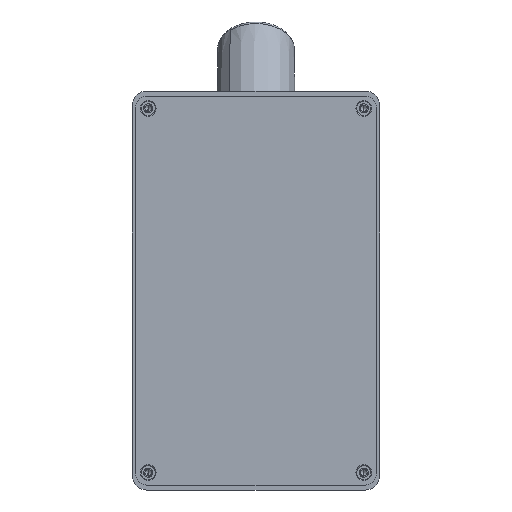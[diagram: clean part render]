
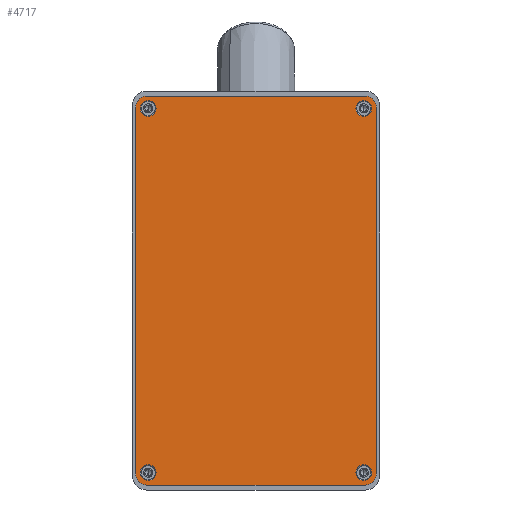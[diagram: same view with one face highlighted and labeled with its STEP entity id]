
A CAD part, front view. The second image highlights one B-rep face of the part: STEP entity #4717.
In plain terms, the highlighted planar face has unit normal (0, -1, 0) as drawn and (0, 1, 0) by its records, which use the part's own axes.
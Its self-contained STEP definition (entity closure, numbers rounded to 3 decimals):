
#136 = FACE_BOUND ( 'NONE', #441, .T. ) ;
#334 = ORIENTED_EDGE ( 'NONE', *, *, #5741, .T. ) ;
#355 = VERTEX_POINT ( 'NONE', #5145 ) ;
#363 = CARTESIAN_POINT ( 'NONE',  ( -78.5, 0., -44. ) ) ;
#365 = DIRECTION ( 'NONE',  ( 0., 1., 0. ) ) ;
#441 = EDGE_LOOP ( 'NONE', ( #6919, #2501 ) ) ;
#449 = ORIENTED_EDGE ( 'NONE', *, *, #3900, .T. ) ;
#470 = EDGE_CURVE ( 'NONE', #3760, #739, #3908, .T. ) ;
#639 = EDGE_CURVE ( 'NONE', #5046, #3588, #1570, .T. ) ;
#640 = EDGE_LOOP ( 'NONE', ( #9676, #1785 ) ) ;
#739 = VERTEX_POINT ( 'NONE', #7629 ) ;
#778 = ORIENTED_EDGE ( 'NONE', *, *, #8819, .T. ) ;
#803 = CARTESIAN_POINT ( 'NONE',  ( 74., 0., -48.5 ) ) ;
#835 = ORIENTED_EDGE ( 'NONE', *, *, #470, .F. ) ;
#850 = CARTESIAN_POINT ( 'NONE',  ( 78.5, 0., 44. ) ) ;
#877 = FACE_OUTER_BOUND ( 'NONE', #9380, .T. ) ;
#952 = VERTEX_POINT ( 'NONE', #9512 ) ;
#975 = VECTOR ( 'NONE', #2013, 1000. ) ;
#1079 = AXIS2_PLACEMENT_3D ( 'NONE', #8749, #5695, #1634 ) ;
#1083 = CARTESIAN_POINT ( 'NONE',  ( -74., 0., 44. ) ) ;
#1117 = CARTESIAN_POINT ( 'NONE',  ( -73.5, 0., -46.65 ) ) ;
#1123 = AXIS2_PLACEMENT_3D ( 'NONE', #1272, #1382, #6908 ) ;
#1272 = CARTESIAN_POINT ( 'NONE',  ( -73.5, 0., -43.5 ) ) ;
#1332 = AXIS2_PLACEMENT_3D ( 'NONE', #8323, #9928, #7470 ) ;
#1334 = AXIS2_PLACEMENT_3D ( 'NONE', #7619, #5301, #2914 ) ;
#1382 = DIRECTION ( 'NONE',  ( 0., 1., 0. ) ) ;
#1390 = CARTESIAN_POINT ( 'NONE',  ( 73.5, 0., -40.35 ) ) ;
#1560 = VERTEX_POINT ( 'NONE', #2575 ) ;
#1570 = CIRCLE ( 'NONE', #1332, 4.5 ) ;
#1634 = DIRECTION ( 'NONE',  ( 0., 0., 1. ) ) ;
#1651 = EDGE_CURVE ( 'NONE', #2747, #952, #2968, .T. ) ;
#1785 = ORIENTED_EDGE ( 'NONE', *, *, #6494, .F. ) ;
#1974 = FACE_BOUND ( 'NONE', #7799, .T. ) ;
#2013 = DIRECTION ( 'NONE',  ( 0., 0., -1. ) ) ;
#2124 = CARTESIAN_POINT ( 'NONE',  ( -74., 0., -48.5 ) ) ;
#2258 = DIRECTION ( 'NONE',  ( -1., 0., 0. ) ) ;
#2327 = EDGE_CURVE ( 'NONE', #5093, #1560, #8859, .T. ) ;
#2400 = AXIS2_PLACEMENT_3D ( 'NONE', #6205, #6830, #8439 ) ;
#2414 = CIRCLE ( 'NONE', #2400, 4.5 ) ;
#2445 = EDGE_CURVE ( 'NONE', #952, #8246, #4939, .T. ) ;
#2501 = ORIENTED_EDGE ( 'NONE', *, *, #3757, .F. ) ;
#2575 = CARTESIAN_POINT ( 'NONE',  ( -73.5, 0., 46.65 ) ) ;
#2593 = ORIENTED_EDGE ( 'NONE', *, *, #7977, .T. ) ;
#2620 = CARTESIAN_POINT ( 'NONE',  ( 73.5, 0., -46.65 ) ) ;
#2651 = LINE ( 'NONE', #4556, #8684 ) ;
#2747 = VERTEX_POINT ( 'NONE', #6885 ) ;
#2754 = VERTEX_POINT ( 'NONE', #1390 ) ;
#2792 = CARTESIAN_POINT ( 'NONE',  ( 73.5, 0., -43.5 ) ) ;
#2913 = ORIENTED_EDGE ( 'NONE', *, *, #8772, .T. ) ;
#2914 = DIRECTION ( 'NONE',  ( 0., 0., 1. ) ) ;
#2968 = LINE ( 'NONE', #363, #8865 ) ;
#2969 = DIRECTION ( 'NONE',  ( 0., 1., 0. ) ) ;
#2973 = DIRECTION ( 'NONE',  ( 1., 0., 0. ) ) ;
#3080 = LINE ( 'NONE', #9853, #975 ) ;
#3139 = DIRECTION ( 'NONE',  ( 0., 0., 1. ) ) ;
#3151 = CARTESIAN_POINT ( 'NONE',  ( -73.5, 0., 40.35 ) ) ;
#3277 = AXIS2_PLACEMENT_3D ( 'NONE', #1083, #6586, #8967 ) ;
#3413 = DIRECTION ( 'NONE',  ( 0., 1., 0. ) ) ;
#3546 = CIRCLE ( 'NONE', #5454, 3.15 ) ;
#3585 = DIRECTION ( 'NONE',  ( 0., 0., 1. ) ) ;
#3588 = VERTEX_POINT ( 'NONE', #850 ) ;
#3641 = AXIS2_PLACEMENT_3D ( 'NONE', #8804, #3413, #4105 ) ;
#3642 = CIRCLE ( 'NONE', #1334, 3.15 ) ;
#3737 = ORIENTED_EDGE ( 'NONE', *, *, #6120, .F. ) ;
#3753 = AXIS2_PLACEMENT_3D ( 'NONE', #3898, #6294, #3139 ) ;
#3757 = EDGE_CURVE ( 'NONE', #4981, #355, #3546, .T. ) ;
#3760 = VERTEX_POINT ( 'NONE', #1117 ) ;
#3898 = CARTESIAN_POINT ( 'NONE',  ( -73.5, 0., 43.5 ) ) ;
#3900 = EDGE_CURVE ( 'NONE', #8246, #5046, #5538, .T. ) ;
#3908 = CIRCLE ( 'NONE', #1123, 3.15 ) ;
#4051 = CIRCLE ( 'NONE', #5156, 3.15 ) ;
#4069 = CIRCLE ( 'NONE', #3641, 4.5 ) ;
#4105 = DIRECTION ( 'NONE',  ( 0., 0., 1. ) ) ;
#4183 = VECTOR ( 'NONE', #2973, 1000. ) ;
#4556 = CARTESIAN_POINT ( 'NONE',  ( -74., 0., -48.5 ) ) ;
#4598 = FACE_BOUND ( 'NONE', #640, .T. ) ;
#4717 = ADVANCED_FACE ( 'NONE', ( #6784, #4598, #136, #1974, #877 ), #5798, .T. ) ;
#4939 = CIRCLE ( 'NONE', #6353, 4.5 ) ;
#4970 = VERTEX_POINT ( 'NONE', #803 ) ;
#4981 = VERTEX_POINT ( 'NONE', #8882 ) ;
#5046 = VERTEX_POINT ( 'NONE', #7817 ) ;
#5052 = DIRECTION ( 'NONE',  ( 0., 0., 1. ) ) ;
#5093 = VERTEX_POINT ( 'NONE', #3151 ) ;
#5145 = CARTESIAN_POINT ( 'NONE',  ( 73.5, 0., 46.65 ) ) ;
#5156 = AXIS2_PLACEMENT_3D ( 'NONE', #6892, #2969, #6824 ) ;
#5165 = DIRECTION ( 'NONE',  ( 0., 0., 1. ) ) ;
#5301 = DIRECTION ( 'NONE',  ( 0., 1., 0. ) ) ;
#5454 = AXIS2_PLACEMENT_3D ( 'NONE', #8968, #365, #5165 ) ;
#5538 = LINE ( 'NONE', #9222, #4183 ) ;
#5695 = DIRECTION ( 'NONE',  ( 0., 1., 0. ) ) ;
#5741 = EDGE_CURVE ( 'NONE', #3588, #7553, #3080, .T. ) ;
#5798 = PLANE ( 'NONE',  #3277 ) ;
#6120 = EDGE_CURVE ( 'NONE', #739, #3760, #7138, .T. ) ;
#6205 = CARTESIAN_POINT ( 'NONE',  ( 74., 0., -44. ) ) ;
#6294 = DIRECTION ( 'NONE',  ( 0., 1., 0. ) ) ;
#6316 = CARTESIAN_POINT ( 'NONE',  ( -73.5, 0., -43.5 ) ) ;
#6353 = AXIS2_PLACEMENT_3D ( 'NONE', #9761, #8119, #5052 ) ;
#6489 = CIRCLE ( 'NONE', #7960, 3.15 ) ;
#6494 = EDGE_CURVE ( 'NONE', #8031, #2754, #4051, .T. ) ;
#6586 = DIRECTION ( 'NONE',  ( 0., 1., 0. ) ) ;
#6687 = EDGE_LOOP ( 'NONE', ( #3737, #835 ) ) ;
#6784 = FACE_BOUND ( 'NONE', #6687, .T. ) ;
#6824 = DIRECTION ( 'NONE',  ( 0., 0., 1. ) ) ;
#6830 = DIRECTION ( 'NONE',  ( 0., 1., 0. ) ) ;
#6885 = CARTESIAN_POINT ( 'NONE',  ( -78.5, 0., -44. ) ) ;
#6892 = CARTESIAN_POINT ( 'NONE',  ( 73.5, 0., -43.5 ) ) ;
#6908 = DIRECTION ( 'NONE',  ( 0., 0., 1. ) ) ;
#6919 = ORIENTED_EDGE ( 'NONE', *, *, #8758, .F. ) ;
#6937 = ORIENTED_EDGE ( 'NONE', *, *, #2445, .T. ) ;
#6971 = EDGE_CURVE ( 'NONE', #2754, #8031, #6489, .T. ) ;
#7138 = CIRCLE ( 'NONE', #9094, 3.15 ) ;
#7146 = DIRECTION ( 'NONE',  ( 0., 0., 1. ) ) ;
#7234 = EDGE_CURVE ( 'NONE', #1560, #5093, #7238, .T. ) ;
#7238 = CIRCLE ( 'NONE', #3753, 3.15 ) ;
#7470 = DIRECTION ( 'NONE',  ( 0., 0., 1. ) ) ;
#7553 = VERTEX_POINT ( 'NONE', #7611 ) ;
#7611 = CARTESIAN_POINT ( 'NONE',  ( 78.5, 0., -44. ) ) ;
#7619 = CARTESIAN_POINT ( 'NONE',  ( 73.5, 0., 43.5 ) ) ;
#7629 = CARTESIAN_POINT ( 'NONE',  ( -73.5, 0., -40.35 ) ) ;
#7799 = EDGE_LOOP ( 'NONE', ( #9631, #10165 ) ) ;
#7817 = CARTESIAN_POINT ( 'NONE',  ( 74., 0., 48.5 ) ) ;
#7926 = DIRECTION ( 'NONE',  ( 0., 1., 0. ) ) ;
#7960 = AXIS2_PLACEMENT_3D ( 'NONE', #2792, #8284, #3585 ) ;
#7977 = EDGE_CURVE ( 'NONE', #10039, #2747, #4069, .T. ) ;
#8031 = VERTEX_POINT ( 'NONE', #2620 ) ;
#8119 = DIRECTION ( 'NONE',  ( 0., 1., 0. ) ) ;
#8246 = VERTEX_POINT ( 'NONE', #9238 ) ;
#8284 = DIRECTION ( 'NONE',  ( 0., 1., 0. ) ) ;
#8323 = CARTESIAN_POINT ( 'NONE',  ( 74., 0., 44. ) ) ;
#8439 = DIRECTION ( 'NONE',  ( 0., 0., 1. ) ) ;
#8684 = VECTOR ( 'NONE', #2258, 1000. ) ;
#8749 = CARTESIAN_POINT ( 'NONE',  ( -73.5, 0., 43.5 ) ) ;
#8758 = EDGE_CURVE ( 'NONE', #355, #4981, #3642, .T. ) ;
#8772 = EDGE_CURVE ( 'NONE', #7553, #4970, #2414, .T. ) ;
#8804 = CARTESIAN_POINT ( 'NONE',  ( -74., 0., -44. ) ) ;
#8819 = EDGE_CURVE ( 'NONE', #4970, #10039, #2651, .T. ) ;
#8859 = CIRCLE ( 'NONE', #1079, 3.15 ) ;
#8865 = VECTOR ( 'NONE', #9875, 1000. ) ;
#8882 = CARTESIAN_POINT ( 'NONE',  ( 73.5, 0., 40.35 ) ) ;
#8967 = DIRECTION ( 'NONE',  ( 0., 0., 1. ) ) ;
#8968 = CARTESIAN_POINT ( 'NONE',  ( 73.5, 0., 43.5 ) ) ;
#9094 = AXIS2_PLACEMENT_3D ( 'NONE', #6316, #7926, #7146 ) ;
#9147 = ORIENTED_EDGE ( 'NONE', *, *, #1651, .T. ) ;
#9222 = CARTESIAN_POINT ( 'NONE',  ( -74., 0., 48.5 ) ) ;
#9238 = CARTESIAN_POINT ( 'NONE',  ( -74., 0., 48.5 ) ) ;
#9380 = EDGE_LOOP ( 'NONE', ( #6937, #449, #10058, #334, #2913, #778, #2593, #9147 ) ) ;
#9512 = CARTESIAN_POINT ( 'NONE',  ( -78.5, 0., 44. ) ) ;
#9631 = ORIENTED_EDGE ( 'NONE', *, *, #7234, .F. ) ;
#9676 = ORIENTED_EDGE ( 'NONE', *, *, #6971, .F. ) ;
#9761 = CARTESIAN_POINT ( 'NONE',  ( -74., 0., 44. ) ) ;
#9853 = CARTESIAN_POINT ( 'NONE',  ( 78.5, 0., -44. ) ) ;
#9875 = DIRECTION ( 'NONE',  ( 0., 0., 1. ) ) ;
#9928 = DIRECTION ( 'NONE',  ( 0., 1., 0. ) ) ;
#10039 = VERTEX_POINT ( 'NONE', #2124 ) ;
#10058 = ORIENTED_EDGE ( 'NONE', *, *, #639, .T. ) ;
#10165 = ORIENTED_EDGE ( 'NONE', *, *, #2327, .F. ) ;
